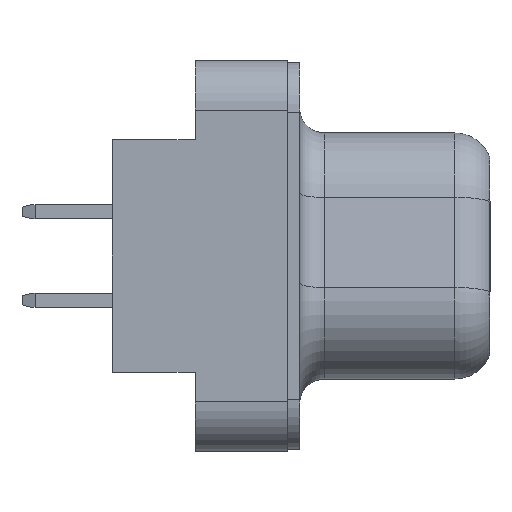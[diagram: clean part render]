
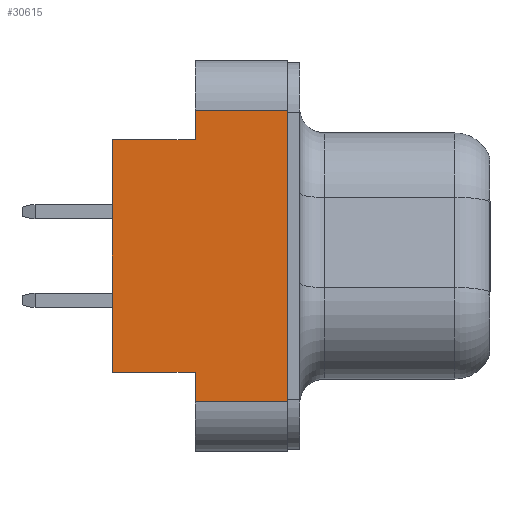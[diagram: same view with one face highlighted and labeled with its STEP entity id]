
A CAD part, left-side view. The second image highlights one B-rep face of the part: STEP entity #30615.
In plain terms, the highlighted planar face has unit normal (-1, 0, 0).
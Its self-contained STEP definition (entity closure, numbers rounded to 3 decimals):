
#1111=DIRECTION('',(0.,0.,1.));
#1112=VECTOR('',#1111,7.45);
#1113=CARTESIAN_POINT('',(-15.5,6.,-3.725));
#1114=LINE('6621',#1113,#1112);
#1115=DIRECTION('',(0.,-1.,0.));
#1116=VECTOR('',#1115,2.65);
#1117=CARTESIAN_POINT('',(-15.5,6.,3.725));
#1118=LINE('5812',#1117,#1116);
#1119=DIRECTION('',(0.,0.,-1.));
#1120=VECTOR('',#1119,0.95);
#1121=CARTESIAN_POINT('',(-15.5,3.35,4.675));
#1122=LINE('5819',#1121,#1120);
#1123=DIRECTION('',(0.,1.,0.));
#1124=VECTOR('',#1123,2.95);
#1125=CARTESIAN_POINT('',(-15.5,0.4,4.675));
#1126=LINE('5827',#1125,#1124);
#1127=DIRECTION('',(0.,0.,-1.));
#1128=VECTOR('',#1127,0.95);
#1129=CARTESIAN_POINT('',(-15.5,3.35,-3.725));
#1130=LINE('5820',#1129,#1128);
#1131=DIRECTION('',(0.,-1.,0.));
#1132=VECTOR('',#1131,2.65);
#1133=CARTESIAN_POINT('',(-15.5,6.,-3.725));
#1134=LINE('5811',#1133,#1132);
#1402=DIRECTION('',(0.,0.,-1.));
#1403=VECTOR('',#1402,9.35);
#1404=CARTESIAN_POINT('',(-15.5,0.4,4.675));
#1405=LINE('5806',#1404,#1403);
#2008=DIRECTION('',(0.,1.,0.));
#2009=VECTOR('',#2008,2.95);
#2010=CARTESIAN_POINT('',(-15.5,0.4,-4.675));
#2011=LINE('5828',#2010,#2009);
#24313=CARTESIAN_POINT('',(-15.5,0.4,4.675));
#24315=VERTEX_POINT('',#24313);
#24316=CARTESIAN_POINT('',(-15.5,0.4,-4.675));
#24317=VERTEX_POINT('',#24316);
#24330=CARTESIAN_POINT('',(-15.5,6.,-3.725));
#24331=CARTESIAN_POINT('',(-15.5,3.35,-3.725));
#24332=VERTEX_POINT('',#24330);
#24333=VERTEX_POINT('',#24331);
#24334=CARTESIAN_POINT('',(-15.5,6.,3.725));
#24335=CARTESIAN_POINT('',(-15.5,3.35,3.725));
#24336=VERTEX_POINT('',#24334);
#24337=VERTEX_POINT('',#24335);
#24349=CARTESIAN_POINT('',(-15.5,3.35,4.675));
#24351=VERTEX_POINT('',#24349);
#24352=CARTESIAN_POINT('',(-15.5,3.35,-4.675));
#24353=VERTEX_POINT('',#24352);
#30595=CARTESIAN_POINT('',(-15.5,0.4,4.675));
#30596=DIRECTION('',(-1.,0.,0.));
#30597=DIRECTION('',(0.,0.,-1.));
#30598=AXIS2_PLACEMENT_3D('',#30595,#30596,#30597);
#30599=PLANE('3764',#30598);
#30601=ORIENTED_EDGE('6621',*,*,#30600,.T.);
#30602=ORIENTED_EDGE('5812',*,*,#29445,.T.);
#30604=ORIENTED_EDGE('5819',*,*,#30603,.F.);
#30606=ORIENTED_EDGE('5827',*,*,#30605,.F.);
#30608=ORIENTED_EDGE('5806',*,*,#30607,.T.);
#30610=ORIENTED_EDGE('5828',*,*,#30609,.T.);
#30611=ORIENTED_EDGE('5820',*,*,#30271,.F.);
#30612=ORIENTED_EDGE('5811',*,*,#29280,.F.);
#30613=EDGE_LOOP('3764',(#30601,#30602,#30604,#30606,#30608,#30610,#30611,
#30612));
#30614=FACE_OUTER_BOUND('3764',#30613,.F.);
#30615=ADVANCED_FACE('3764',(#30614),#30599,.T.);
#29280=EDGE_CURVE('5811',#24332,#24333,#1134,.T.);
#29445=EDGE_CURVE('5812',#24336,#24337,#1118,.T.);
#30271=EDGE_CURVE('5820',#24333,#24353,#1130,.T.);
#30600=EDGE_CURVE('6621',#24332,#24336,#1114,.T.);
#30603=EDGE_CURVE('5819',#24351,#24337,#1122,.T.);
#30605=EDGE_CURVE('5827',#24315,#24351,#1126,.T.);
#30607=EDGE_CURVE('5806',#24315,#24317,#1405,.T.);
#30609=EDGE_CURVE('5828',#24317,#24353,#2011,.T.);
